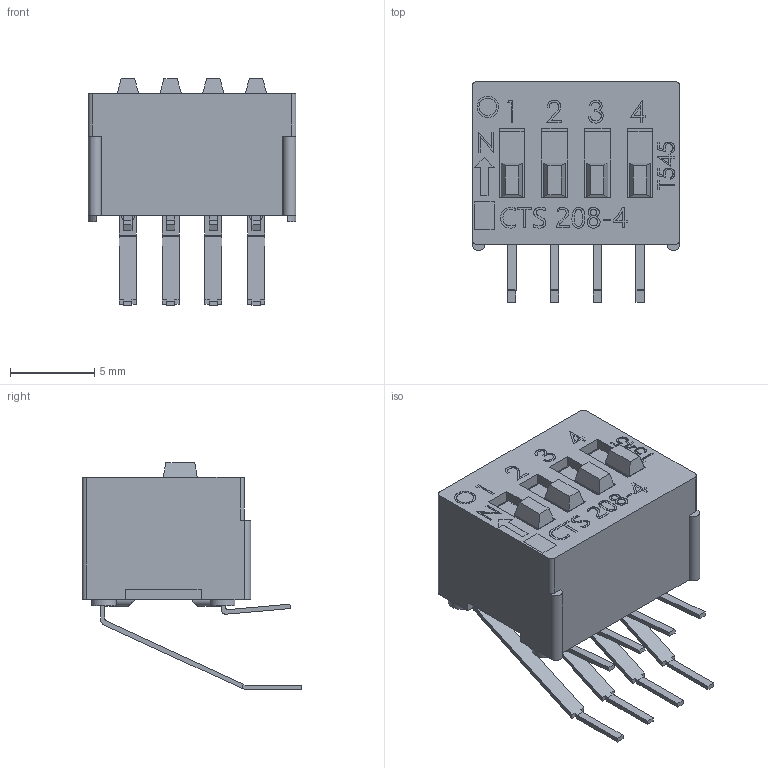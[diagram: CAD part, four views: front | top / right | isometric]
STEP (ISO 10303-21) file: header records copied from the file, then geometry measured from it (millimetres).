
FILE_DESCRIPTION (( 'STEP AP214' ), '1' );
FILE_NAME ('208-4RA.STEP', '2019-05-28T02:41:39', ( '' ), ( '' ), 'SwSTEP 2.0', 'SolidWorks 2019', '' );
FILE_SCHEMA (( 'AUTOMOTIVE_DESIGN' ));
Length unit declared in the file: millimetre
Products named in the file (4): 206-56-014-35-01; 208-4RA; 206004RAS- Base assly; 208-4RA cover
Assembly tree (6 placements, depth 2):
  208-4RA
    208-4RA cover
    206004RAS- Base assly
    206-56-014-35-01  x4
Bounding box: 12.34 x 13.08 x 13.5 mm (x, y, z)
Volume: 557 mm3; surface area: 1782.3 mm2
Topology: 6 solids, 6 shells, 574 faces, 1539 edges, 1016 vertices
Faces by surface type: plane 412, bspline 98, cylinder 64
Entity records: 20426 total; most frequent: CARTESIAN_POINT 8889, ORIENTED_EDGE 2472, DIRECTION 1864, EDGE_CURVE 1236, LINE 950, VECTOR 950, VERTEX_POINT 818, EDGE_LOOP 506
